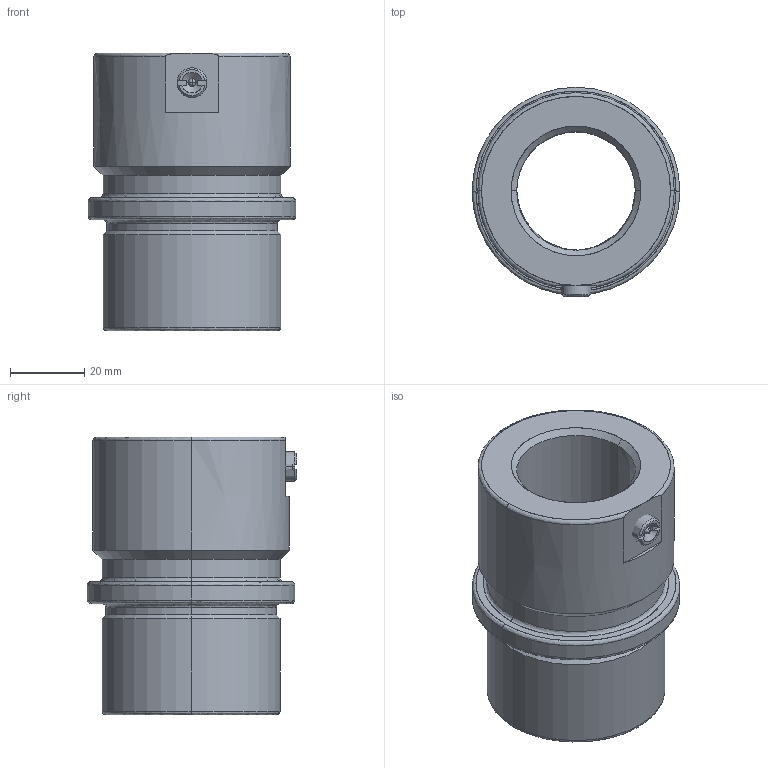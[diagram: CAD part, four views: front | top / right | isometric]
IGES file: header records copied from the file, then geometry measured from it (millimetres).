
Start section: START RECORD GO HERE.
Global section: file name: 744-32.igs; native system: DASSAULT SYSTEMES CATIA V5 R20 - www.3ds.com; preprocessor: CATIA Version 5 Release 20 ; author: Utente; organization: NB04-ASUS; date: 20201223.221629; units: millimetre
Bounding box: 56 x 56.5 x 75 mm (x, y, z)
Surface area: 23463.5 mm2 (no closed solid volume)
Topology: 0 solids, 0 shells, 67 faces, 310 edges, 306 vertices
Faces by surface type: revolution 51, plane 16
